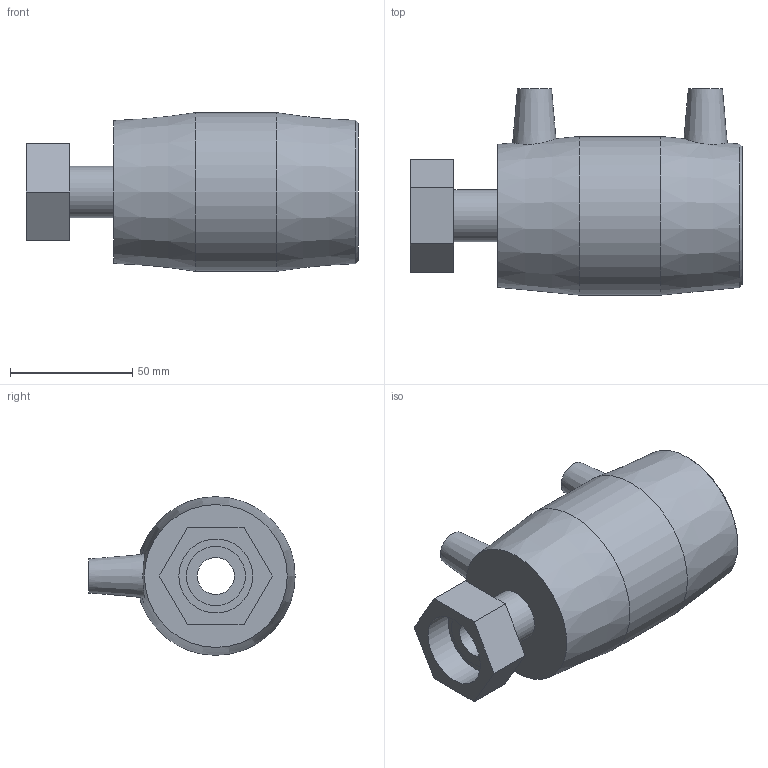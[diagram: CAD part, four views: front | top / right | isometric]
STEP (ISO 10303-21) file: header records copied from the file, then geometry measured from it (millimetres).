
FILE_DESCRIPTION(/* description */ ('PLASSON FEMALE FREE NUT TRANSITION COUPLER 50X1"'),/* implementation_level */ '2;1');
FILE_NAME(/* name */ '494104050010.stp',/* time_stamp */ '2026-05-12T11:34:35+03:00',/* author */ ('KIM'),/* organization */ (''),/* preprocessor_version */ 'ST-DEVELOPER v20.1',/* originating_system */ 'Autodesk Inventor 2026',/* authorisation */ '');
FILE_SCHEMA (('AUTOMOTIVE_DESIGN { 1 0 10303 214 3 1 1 }'));
Length unit declared in the file: millimetre
Products named in the file (1): 494104050010
Bounding box: 136 x 84.5 x 65 mm (x, y, z)
Volume: 154123.4 mm3; surface area: 51081.5 mm2
Topology: 1 solids, 1 shells, 36 faces, 66 edges, 44 vertices
Faces by surface type: plane 20, cylinder 11, cone 5
Full cylindrical faces by diameter (mm): 4 x2, 10 x2, 15.146 x1, 21.204 x1, 24.233 x1, 30.291 x1, 47.5 x1, 50 x1, 65 x1
Entity records: 1005 total; most frequent: CARTESIAN_POINT 215, DIRECTION 164, ORIENTED_EDGE 132, EDGE_CURVE 66, AXIS2_PLACEMENT_3D 65, EDGE_LOOP 50, VERTEX_POINT 44, FACE_OUTER_BOUND 36
